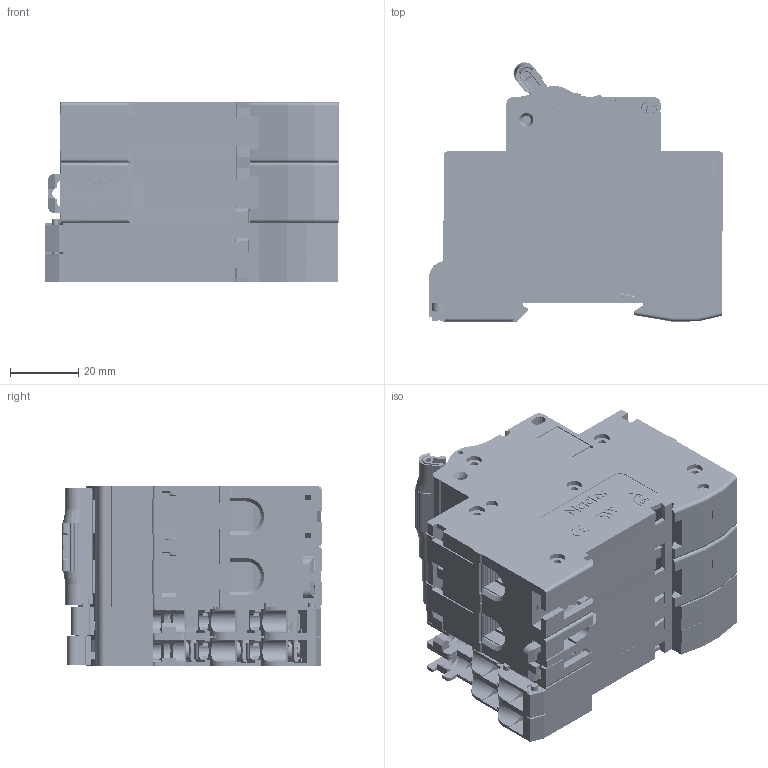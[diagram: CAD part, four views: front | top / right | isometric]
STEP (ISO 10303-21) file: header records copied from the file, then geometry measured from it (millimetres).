
FILE_DESCRIPTION (( 'STEP AP214' ), '1' );
FILE_NAME ('NDB2ZB-63 C252P+OF2+SD2.STEP', '2025-02-11T03:39:05', ( '' ), ( '' ), 'SwSTEP 2.0', 'SolidWorks 2018', '' );
FILE_SCHEMA (( 'AUTOMOTIVE_DESIGN' ));
Length unit declared in the file: millimetre
Products named in the file (16): 8LD.024.137.STEP; NDB2ZB-63 C252P+OF2+SD2; OF2 痄荂蚾饜极; 8LD.253.129.STEP; 8LD.315.140.STEP; NDB2-63 2P-3D模型图 【2020.11.12】.STEP; 8LD.253.171.STEP; 1p.STEP; 8LD.039.100.STEP; 5LD.865.0086; 8LD.516.164.STEP; 1p-1.STEP; 5LD.005.163; 8LD.143.115.STEP; 8LD.516.163.STEP; 8LD.315.141.STEP
Assembly tree (24 placements, depth 4):
  NDB2ZB-63 C252P+OF2+SD2
    NDB2-63 2P-3D模型图 【2020.11.12】.STEP
      1p.STEP
        8LD.024.137.STEP
        8LD.253.129.STEP
        8LD.315.140.STEP
        8LD.315.141.STEP  x2
        8LD.516.163.STEP
        8LD.516.164.STEP
        8LD.039.100.STEP
      1p-1.STEP
        8LD.024.137.STEP
        8LD.253.129.STEP
        8LD.143.115.STEP
        8LD.315.140.STEP
        8LD.315.141.STEP  x2
        8LD.516.163.STEP
        8LD.516.164.STEP
        8LD.039.100.STEP
      8LD.253.171.STEP
    5LD.865.0086
    OF2 痄荂蚾饜极
      5LD.005.163
Bounding box: 85.92 x 75.83 x 52.4 mm (x, y, z)
Volume: 79351.8 mm3; surface area: 147945 mm2
Topology: 62 solids, 90 shells, 9709 faces, 28205 edges, 18813 vertices
Faces by surface type: plane 6080, cylinder 2464, cone 675, bspline 451, torus 32, sphere 7
Entity records: 258397 total; most frequent: CARTESIAN_POINT 58340, ORIENTED_EDGE 36387, DIRECTION 32526, EDGE_CURVE 18825, VECTOR 12926, LINE 12926, VERTEX_POINT 12642, AXIS2_PLACEMENT_3D 9800
